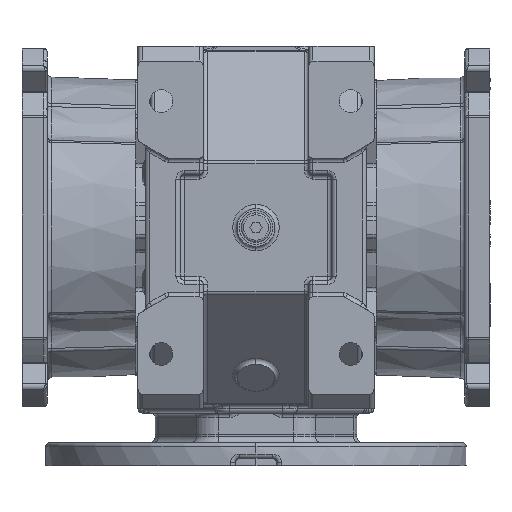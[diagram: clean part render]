
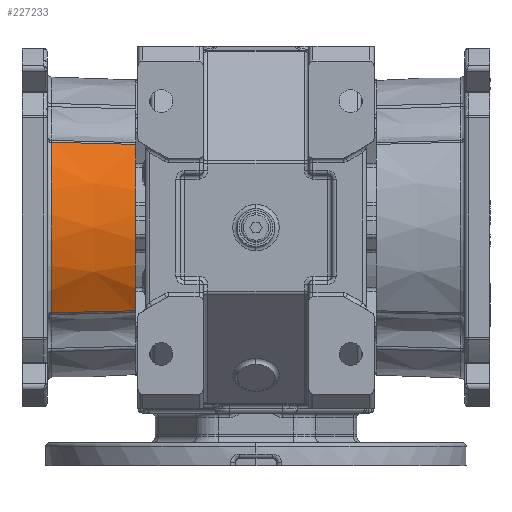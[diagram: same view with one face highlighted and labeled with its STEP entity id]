
A CAD part, front view. The second image highlights one B-rep face of the part: STEP entity #227233.
In plain terms, the highlighted conical face has half-angle 2 degrees and reference radius 71.467 mm.
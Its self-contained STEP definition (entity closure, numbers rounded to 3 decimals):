
#197716 = CARTESIAN_POINT ( 'NONE',  ( 40.123, -58.494, -26.713 ) ) ;
#198591 = B_SPLINE_CURVE_WITH_KNOTS ( 'NONE', 3,
 ( #199524, #197716, #200328, #200326 ),
 .UNSPECIFIED., .F., .F.,
 ( 4, 4 ),
 ( 0., 0.04 ),
 .UNSPECIFIED. ) ;
#199524 = CARTESIAN_POINT ( 'NONE',  ( 40.454, -58.833, -40.07 ) ) ;
#200326 = CARTESIAN_POINT ( 'NONE',  ( 39.461, -57.817, 0. ) ) ;
#200328 = CARTESIAN_POINT ( 'NONE',  ( 39.792, -58.156, -13.357 ) ) ;
#200330 = CARTESIAN_POINT ( 'NONE',  ( 40.454, -58.833, -40.07 ) ) ;
#200332 = DIRECTION ( 'NONE',  ( -1., 0., 0. ) ) ;
#200334 = DIRECTION ( 'NONE',  ( 0., 0., 1. ) ) ;
#200335 = AXIS2_PLACEMENT_3D ( 'NONE', #200346, #200334, #200332 ) ;
#200337 = CARTESIAN_POINT ( 'NONE',  ( -40.454, -58.833, -40.07 ) ) ;
#200346 = CARTESIAN_POINT ( 'NONE',  ( 0., 0., -40.07 ) ) ;
#200355 = CIRCLE ( 'NONE', #200335, 71.399 ) ;
#200473 = CARTESIAN_POINT ( 'NONE',  ( -40.454, -58.833, -40.07 ) ) ;
#200476 = CARTESIAN_POINT ( 'NONE',  ( -40.123, -58.494, -26.713 ) ) ;
#200479 = CARTESIAN_POINT ( 'NONE',  ( -39.792, -58.156, -13.357 ) ) ;
#200482 = CARTESIAN_POINT ( 'NONE',  ( -39.461, -57.817, 0. ) ) ;
#200495 = B_SPLINE_CURVE_WITH_KNOTS ( 'NONE', 3,
 ( #200482, #200479, #200476, #200473 ),
 .UNSPECIFIED., .F., .F.,
 ( 4, 4 ),
 ( 0., 0.04 ),
 .UNSPECIFIED. ) ;
#200506 = CARTESIAN_POINT ( 'NONE',  ( -39.461, -57.817, 0. ) ) ;
#200508 = DIRECTION ( 'NONE',  ( 1., 0., 0. ) ) ;
#200511 = DIRECTION ( 'NONE',  ( 0., 0., 1. ) ) ;
#200512 = CARTESIAN_POINT ( 'NONE',  ( 0., 0., 0. ) ) ;
#200514 = AXIS2_PLACEMENT_3D ( 'NONE', #200512, #200511, #200508 ) ;
#200517 = CIRCLE ( 'NONE', #200514, 70. ) ;
#200530 = CARTESIAN_POINT ( 'NONE',  ( 39.461, -57.817, 0. ) ) ;
#201033 = DIRECTION ( 'NONE',  ( -1., 0., 0. ) ) ;
#201036 = DIRECTION ( 'NONE',  ( 0., 0., -1. ) ) ;
#201037 = AXIS2_PLACEMENT_3D ( 'NONE', #201049, #201036, #201033 ) ;
#201039 = CONICAL_SURFACE ( 'NONE', #201037, 71.467, 0.035 ) ;
#201049 = CARTESIAN_POINT ( 'NONE',  ( 0., 0., -42. ) ) ;
#201052 = FACE_OUTER_BOUND ( 'NONE', #227028, .T. ) ;
#227028 = EDGE_LOOP ( 'NONE', ( #227030, #227039, #227043, #227048 ) ) ;
#227030 = ORIENTED_EDGE ( 'NONE', *, *, #227032, .T. ) ;
#227032 = EDGE_CURVE ( 'NONE', #227035, #227037, #200355, .T. ) ;
#227035 = VERTEX_POINT ( 'NONE', #200337 ) ;
#227037 = VERTEX_POINT ( 'NONE', #200330 ) ;
#227039 = ORIENTED_EDGE ( 'NONE', *, *, #227040, .T. ) ;
#227040 = EDGE_CURVE ( 'NONE', #227037, #227041, #198591, .T. ) ;
#227041 = VERTEX_POINT ( 'NONE', #200530 ) ;
#227043 = ORIENTED_EDGE ( 'NONE', *, *, #227045, .F. ) ;
#227045 = EDGE_CURVE ( 'NONE', #227047, #227041, #200517, .T. ) ;
#227047 = VERTEX_POINT ( 'NONE', #200506 ) ;
#227048 = ORIENTED_EDGE ( 'NONE', *, *, #227049, .T. ) ;
#227049 = EDGE_CURVE ( 'NONE', #227047, #227035, #200495, .T. ) ;
#227233 = ADVANCED_FACE ( 'NONE', ( #201052 ), #201039, .T. ) ;
